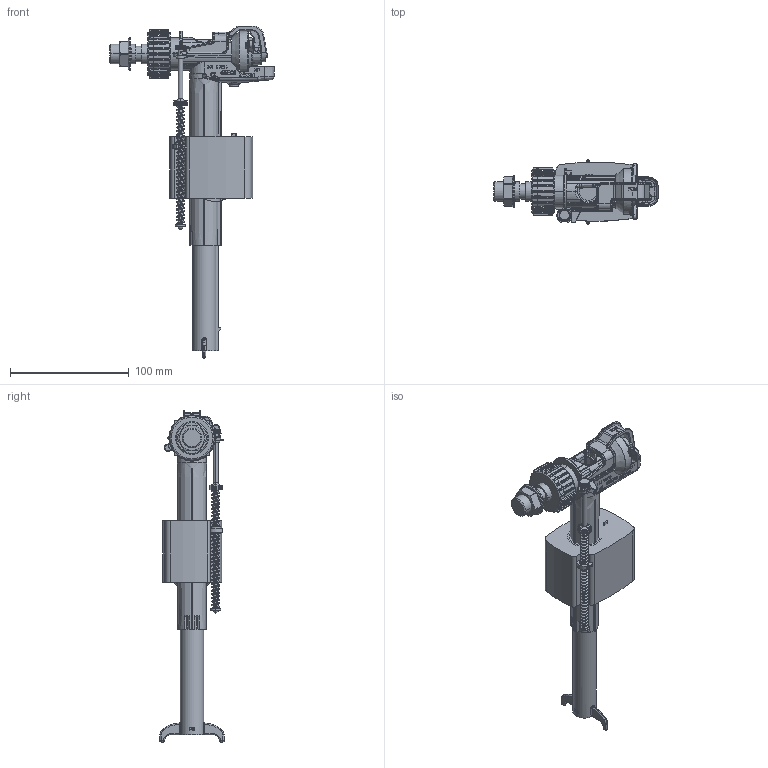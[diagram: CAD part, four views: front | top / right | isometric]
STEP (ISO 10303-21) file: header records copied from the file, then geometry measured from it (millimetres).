
FILE_DESCRIPTION((''),'2;1');
FILE_NAME('F10_03','2017-12-19T',('mschlueter'),('NET'),'CREO PARAMETRIC BY PTC INC, 2017170','CREO PARAMETRIC BY PTC INC, 2017170','');
FILE_SCHEMA(('CONFIG_CONTROL_DESIGN'));
Products named in the file (1): F10_03
Bounding box: 138.41 x 54 x 279.57 mm (x, y, z)
Surface area: 85844 mm2 (no closed solid volume)
Topology: 0 solids, 109 shells, 1414 faces, 5347 edges, 3894 vertices
Faces by surface type: plane 522, cylinder 466, bspline 261, torus 86, cone 57, sphere 22
Entity records: 113753 total; most frequent: CARTESIAN_POINT 50033, ORIENTED_EDGE 7974, PRESENTATION_STYLE_ASSIGNMENT 6629, DIRECTION 6183, STYLED_ITEM 5354, CURVE_STYLE 5344, EDGE_CURVE 5344, VERTEX_POINT 3894
